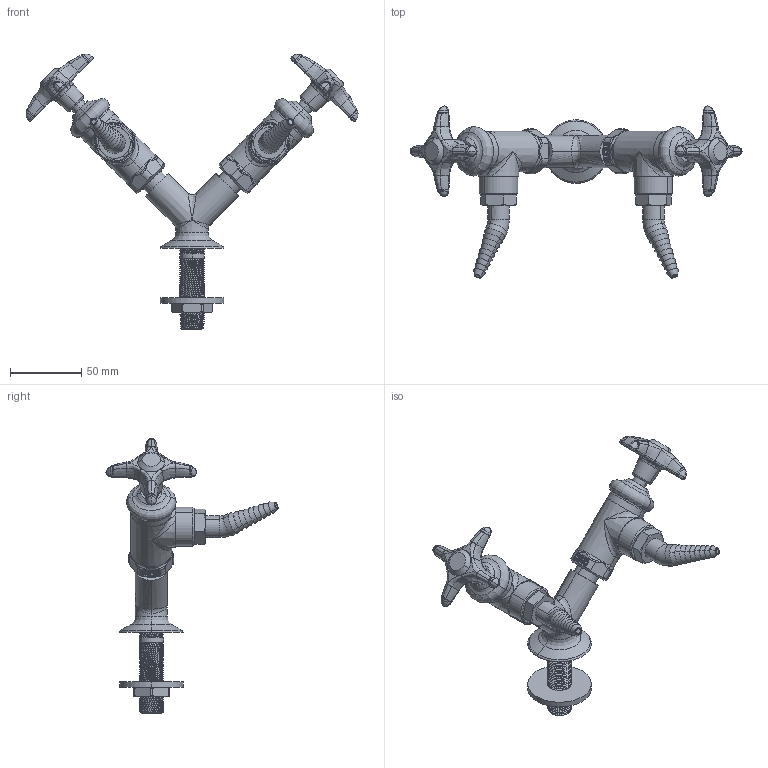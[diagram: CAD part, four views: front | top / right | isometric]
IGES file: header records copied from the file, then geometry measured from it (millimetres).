
Start section:  PTC IGES file: LWV2-B22-65.igs
Global section: file name: LWV2-B22-65.igs; native system: Creo Parametric by PTC Inc.; preprocessor: 2014500; author: usch_engrender; organization: Unknown; date: 20151123.150330; units: inch
Bounding box: 232.35 x 120.38 x 193.1 mm (x, y, z)
Volume: 166177.6 mm3; surface area: 71146.4 mm2
Topology: 1 solids, 12 shells, 1411 faces, 3293 edges, 1961 vertices
Faces by surface type: bspline 783, revolution 628
